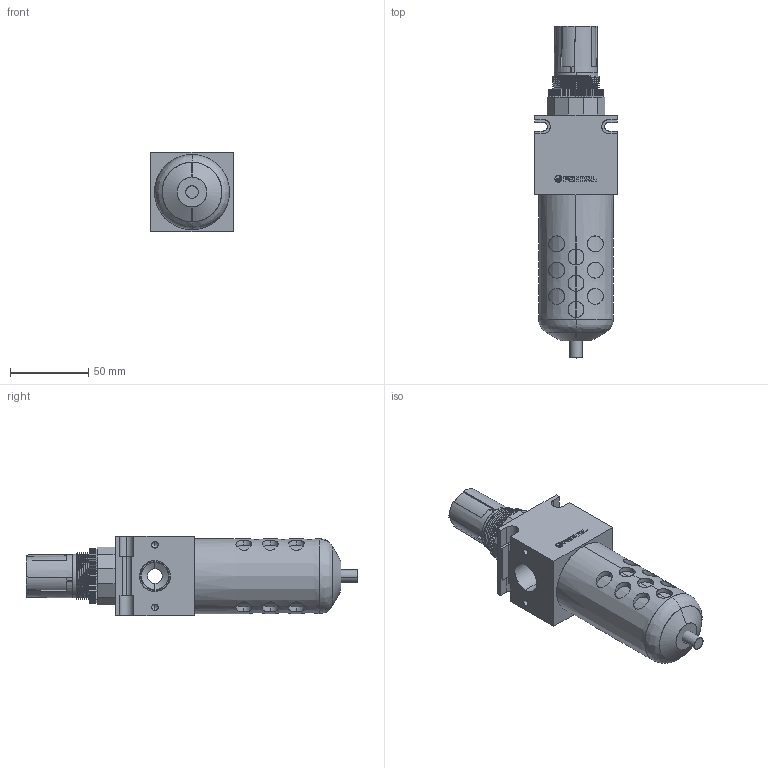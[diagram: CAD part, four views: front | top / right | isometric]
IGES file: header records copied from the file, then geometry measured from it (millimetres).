
Start section: SolidWorks IGES file using analytic representation for surfaces
Global section: file name: C:\Users\Toshiba\Desktop\B55#-04#Y##.IGS; native system: SolidWorks 2014; preprocessor: SolidWorks 2014; author: Toshiba; date: 160203.160048; units: millimetre
Bounding box: 53 x 212.5 x 51.12 mm (x, y, z)
Surface area: 53791.9 mm2 (no closed solid volume)
Topology: 0 solids, 0 shells, 515 faces, 6665 edges, 6657 vertices
Faces by surface type: bspline 292, revolution 223
